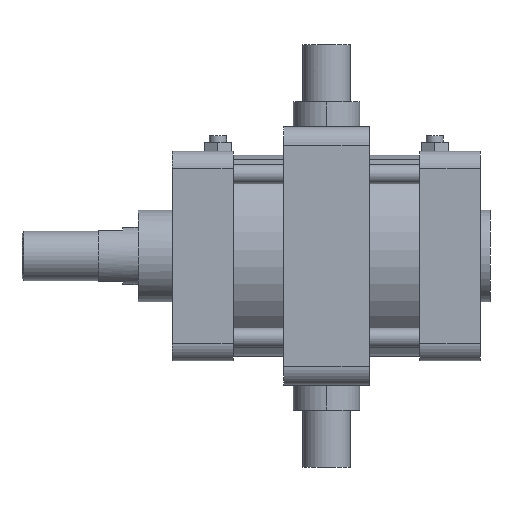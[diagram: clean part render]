
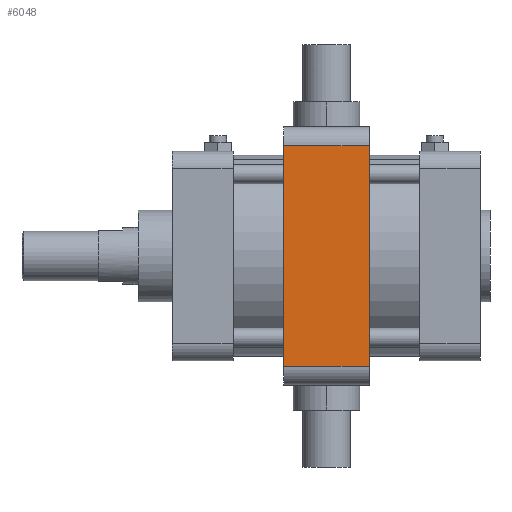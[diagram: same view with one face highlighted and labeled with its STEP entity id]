
A CAD part, front view. The second image highlights one B-rep face of the part: STEP entity #6048.
In plain terms, the highlighted planar face has unit normal (0, -1, 0) as drawn and (0, 0, 1) by its records, which use the part's own axes.
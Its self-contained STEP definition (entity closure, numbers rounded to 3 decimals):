
#134 = DIRECTION ( 'NONE',  ( 0., 1., 0. ) ) ;
#292 = EDGE_CURVE ( 'NONE', #8454, #6938, #2991, .T. ) ;
#655 = CARTESIAN_POINT ( 'NONE',  ( 0., 0., 68. ) ) ;
#1188 = CARTESIAN_POINT ( 'NONE',  ( 58., -45., 68. ) ) ;
#1325 = EDGE_CURVE ( 'NONE', #3757, #8454, #4628, .T. ) ;
#1421 = FACE_OUTER_BOUND ( 'NONE', #5671, .T. ) ;
#1711 = CARTESIAN_POINT ( 'NONE',  ( -58., -45., 68. ) ) ;
#2104 = ORIENTED_EDGE ( 'NONE', *, *, #1325, .T. ) ;
#2284 = DIRECTION ( 'NONE',  ( 1., 0., 0. ) ) ;
#2991 = LINE ( 'NONE', #7255, #3132 ) ;
#3013 = ORIENTED_EDGE ( 'NONE', *, *, #292, .T. ) ;
#3132 = VECTOR ( 'NONE', #7251, 1000. ) ;
#3213 = DIRECTION ( 'NONE',  ( 0., 0., 1. ) ) ;
#3227 = VECTOR ( 'NONE', #8040, 1000. ) ;
#3501 = CARTESIAN_POINT ( 'NONE',  ( -58., 0., 68. ) ) ;
#3545 = DIRECTION ( 'NONE',  ( 1., 0., 0. ) ) ;
#3653 = CARTESIAN_POINT ( 'NONE',  ( -58., -45., 68. ) ) ;
#3757 = VERTEX_POINT ( 'NONE', #3501 ) ;
#3849 = CARTESIAN_POINT ( 'NONE',  ( 58., -22.5, 68. ) ) ;
#3898 = ORIENTED_EDGE ( 'NONE', *, *, #5147, .F. ) ;
#4099 = CARTESIAN_POINT ( 'NONE',  ( 58., 0., 68. ) ) ;
#4628 = LINE ( 'NONE', #7360, #3227 ) ;
#4909 = EDGE_CURVE ( 'NONE', #6938, #6815, #7406, .T. ) ;
#4943 = VECTOR ( 'NONE', #3545, 1000. ) ;
#5147 = EDGE_CURVE ( 'NONE', #3757, #6815, #7243, .T. ) ;
#5219 = AXIS2_PLACEMENT_3D ( 'NONE', #1711, #3213, #2284 ) ;
#5671 = EDGE_LOOP ( 'NONE', ( #3898, #2104, #3013, #7836 ) ) ;
#5938 = VECTOR ( 'NONE', #134, 1000. ) ;
#6048 = ADVANCED_FACE ( 'NONE', ( #1421 ), #7202, .T. ) ;
#6815 = VERTEX_POINT ( 'NONE', #4099 ) ;
#6938 = VERTEX_POINT ( 'NONE', #1188 ) ;
#7202 = PLANE ( 'NONE',  #5219 ) ;
#7243 = LINE ( 'NONE', #655, #4943 ) ;
#7251 = DIRECTION ( 'NONE',  ( 1., 0., 0. ) ) ;
#7255 = CARTESIAN_POINT ( 'NONE',  ( 0., -45., 68. ) ) ;
#7360 = CARTESIAN_POINT ( 'NONE',  ( -58., -22.5, 68. ) ) ;
#7406 = LINE ( 'NONE', #3849, #5938 ) ;
#7836 = ORIENTED_EDGE ( 'NONE', *, *, #4909, .T. ) ;
#8040 = DIRECTION ( 'NONE',  ( 0., -1., 0. ) ) ;
#8454 = VERTEX_POINT ( 'NONE', #3653 ) ;
